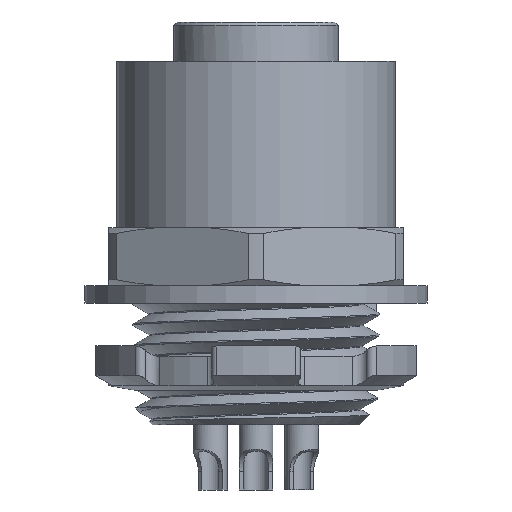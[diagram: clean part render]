
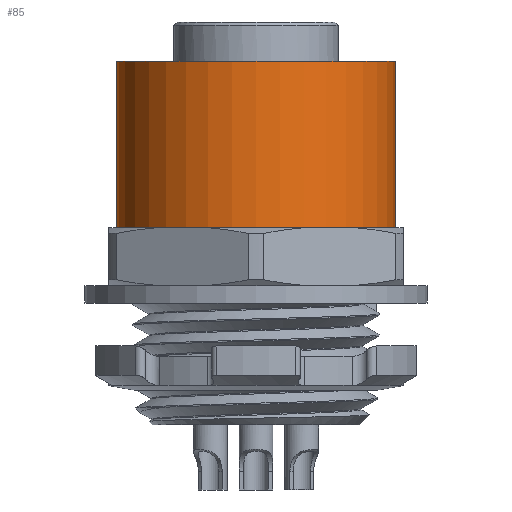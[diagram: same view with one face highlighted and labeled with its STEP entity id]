
A CAD part, front view. The second image highlights one B-rep face of the part: STEP entity #85.
In plain terms, the highlighted cylindrical face has radius 12 mm (diameter 24 mm), a full revolution.
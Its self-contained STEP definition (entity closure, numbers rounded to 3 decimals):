
#85 = ADVANCED_FACE ( 'NONE', ( #8116, #8393 ), #6280, .T. ) ;
#412 = CARTESIAN_POINT ( 'NONE',  ( 12., 0., -17.7 ) ) ;
#1262 = CARTESIAN_POINT ( 'NONE',  ( 0., 0., -17.7 ) ) ;
#2420 = VERTEX_POINT ( 'NONE', #3826 ) ;
#3150 = AXIS2_PLACEMENT_3D ( 'NONE', #9473, #5239, #4442 ) ;
#3414 = EDGE_CURVE ( 'NONE', #3526, #3526, #9246, .T. ) ;
#3526 = VERTEX_POINT ( 'NONE', #412 ) ;
#3826 = CARTESIAN_POINT ( 'NONE',  ( 12., 0., -3.4 ) ) ;
#4407 = EDGE_LOOP ( 'NONE', ( #6499 ) ) ;
#4442 = DIRECTION ( 'NONE',  ( 1., 0., 0. ) ) ;
#4787 = AXIS2_PLACEMENT_3D ( 'NONE', #8072, #8034, #9621 ) ;
#5084 = CIRCLE ( 'NONE', #3150, 12. ) ;
#5239 = DIRECTION ( 'NONE',  ( 0., 0., 1. ) ) ;
#6280 = CYLINDRICAL_SURFACE ( 'NONE', #4787, 12. ) ;
#6363 = DIRECTION ( 'NONE',  ( 1., 0., 0. ) ) ;
#6499 = ORIENTED_EDGE ( 'NONE', *, *, #9821, .F. ) ;
#6786 = EDGE_LOOP ( 'NONE', ( #7356 ) ) ;
#7132 = DIRECTION ( 'NONE',  ( 0., 0., 1. ) ) ;
#7356 = ORIENTED_EDGE ( 'NONE', *, *, #3414, .T. ) ;
#7772 = AXIS2_PLACEMENT_3D ( 'NONE', #1262, #7132, #6363 ) ;
#8034 = DIRECTION ( 'NONE',  ( 0., 0., 1. ) ) ;
#8072 = CARTESIAN_POINT ( 'NONE',  ( 0., 0., -3.4 ) ) ;
#8116 = FACE_OUTER_BOUND ( 'NONE', #4407, .T. ) ;
#8393 = FACE_OUTER_BOUND ( 'NONE', #6786, .T. ) ;
#9246 = CIRCLE ( 'NONE', #7772, 12. ) ;
#9473 = CARTESIAN_POINT ( 'NONE',  ( 0., 0., -3.4 ) ) ;
#9621 = DIRECTION ( 'NONE',  ( 1., 0., 0. ) ) ;
#9821 = EDGE_CURVE ( 'NONE', #2420, #2420, #5084, .T. ) ;
